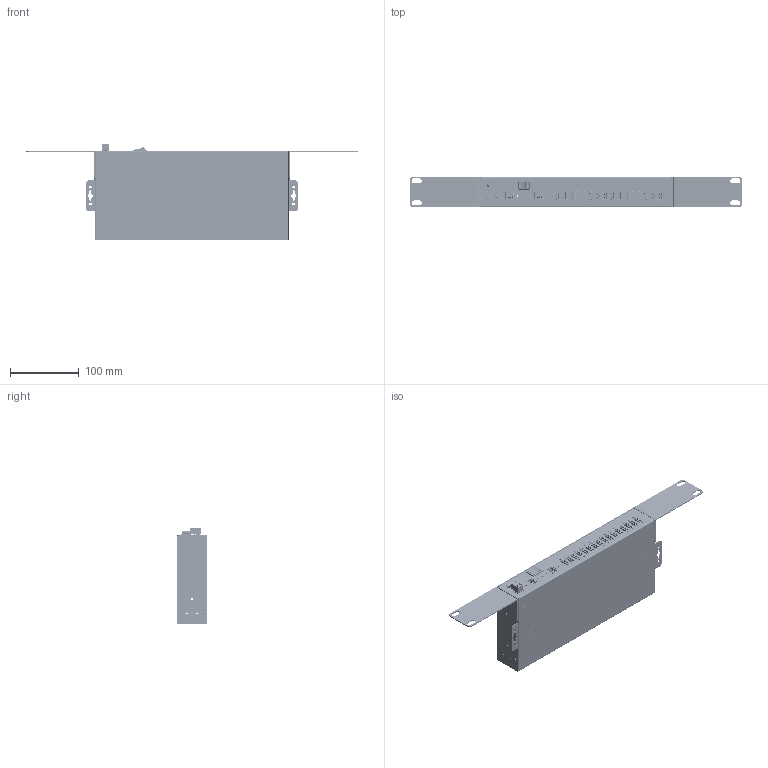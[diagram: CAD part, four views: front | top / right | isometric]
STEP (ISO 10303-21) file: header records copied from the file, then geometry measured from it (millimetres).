
FILE_DESCRIPTION(/* description */ (''),/* implementation_level */ '2;1');
FILE_NAME(/* name */ 'C:/Users/Leo/Desktop/AA CoolGear CADs/CG-16PU3MGD/CG-16PU3MGD Model3D LPV1.step',/* time_stamp */ '2021-08-18T16:23:03-04:00',/* author */ (''),/* organization */ (''),/* preprocessor_version */ 'ST-DEVELOPER v18.1',/* originating_system */ 'Autodesk Translation Framework v10.9.0.1377',/* authorisation */ '');
FILE_SCHEMA (('AUTOMOTIVE_DESIGN { 1 0 10303 214 3 1 1 }'));
Products named in the file (45): CG-16PU3MGD; Component1; 93090A548; Component4; Switch Rocket rounded v1; Body; Rocker; Pins; Pivot; Connector green Phoenix 2 holes female 5.08 v5; USB type A 2 Gen Blue.2Gen1 v2; Housing1; Housing2; pin1; shielding; pin2; shielding_2; Housing3; pin3; pin4; pin5; pin3_mir2; pin4_mir2; LED 1 Block mounting pcb v2; User_Library-Led_3mm_Dialight_mod__551-1107F; USB Type B Single Blue v1; Download_STP_692121030100_(rev1); housing1_1; pin1 (1); housing2_1; pin2 (1); pin; shielding (1); Vent FAn DC brushless_30x30x8_5V v1; Connector green phoenix 2pines male 5.08 v6; Bolt M3X0.5 100Angle 5mmHead.5 China 120ang METRIC 18-8 SS FLAT HEAD 
PHIL MACHINE SCREW v2; Component5; Component5(Mirror); Connector Volts Black plastic v2; Component1 (1) ...
Assembly tree (84 placements, depth 4):
  CG-16PU3MGD
    Component1
      93090A548  x5
    Component4
    Switch Rocket rounded v1
      Body
      Rocker
      Pins
      Pivot
    Connector green Phoenix 2 holes female 5.08 v5
    USB type A 2 Gen Blue.2Gen1 v2  x2
      Housing1
      Housing2
      pin1
      shielding
      pin2
      shielding_2
      Housing3
      pin3
      pin4
      pin5
      pin3_mir2
      pin4_mir2
    LED 1 Block mounting pcb v2  x2
      User_Library-Led_3mm_Dialight_mod__551-1107F
    USB Type B Single Blue v1  x16
      Download_STP_692121030100_(rev1)
        housing1_1
        pin1 (1)  x5
        housing2_1
        pin2 (1)  x2
        pin  x2
        shielding (1)
    Vent FAn DC brushless_30x30x8_5V v1
    Bolt M3X0.5 100Angle 5mmHead.5 China 120ang METRIC 18-8 SS FLAT HEAD 
PHIL MACHINE SCREW v2  x12
    Connector green phoenix 2pines male 5.08 v6
    Component5
    Component5(Mirror)
    Connector Volts Black plastic v2
      Component1 (1)
      Component2
      Component3 (1)
      Component4 (1)
    User_Library-Led_3mm_Dialight_mod__551-1107F (1)
    Component49
Bounding box: 482.23 x 44.29 x 140.57 mm (x, y, z)
Volume: 210368.9 mm3; surface area: 361743.8 mm2
Topology: 5 solids, 215 shells, 30211 faces, 88511 edges, 57308 vertices
Faces by surface type: plane 24049, cylinder 4979, bspline 905, cone 192, torus 65, sphere 21
Full cylindrical faces by diameter (mm): 0.399 x2, 0.798 x1, 1 x1, 1.383 x12, 1.5 x1, 1.6 x2, 1.679 x1, 2.06 x36, 2.16 x1, 2.35 x30, 2.529 x22, 2.66 x1, 2.89 x3, 2.926 x1, 3 x49, 3.1 x5, 3.35 x3, 3.54 x1, 3.8 x4, 3.86 x2, 3.99 x2, 4.522 x4, 4.765 x5, 5.04 x2, 5.4 x5, 6 x1, 6.251 x4, 6.65 x1, 8 x1, 19.95 x1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
Entity records: 1019311 total; most frequent: CARTESIAN_POINT 211726, ORIENTED_EDGE 176968, DIRECTION 155422, EDGE_CURVE 88484, LINE 75646, VECTOR 75646, VERTEX_POINT 57316, AXIS2_PLACEMENT_3D 39888
